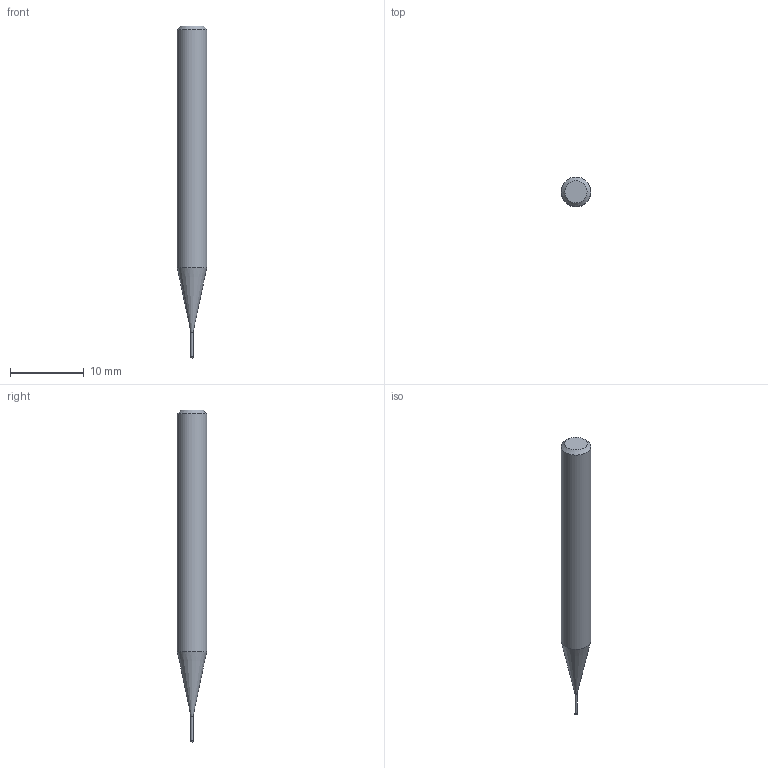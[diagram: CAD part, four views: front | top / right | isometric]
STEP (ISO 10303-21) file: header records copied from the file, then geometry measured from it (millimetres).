
FILE_DESCRIPTION((''),'2;1');
FILE_NAME('C:\Users\nsx150\AppData\Local\Temp\Mastercam 2021\3SYKECWX22\TEMP.step','2021-04-22T09:59:31',(''),(''),'STEP Write','Mastercam 2021 ... CNC Software, Inc.','');
FILE_SCHEMA(('AUTOMOTIVE_DESIGN'));
Length unit declared in the file: millimetre
Products named in the file (1): None
Bounding box: 4 x 4 x 45 mm (x, y, z)
Volume: 449.7 mm3; surface area: 483.5 mm2
Topology: 2 solids, 2 shells, 9 faces, 14 edges, 8 vertices
Faces by surface type: plane 3, cylinder 3, cone 2, sphere 1
Full cylindrical faces by diameter (mm): 0.28 x1, 0.3 x1, 4 x1
Entity records: 211 total; most frequent: DIRECTION 36, CARTESIAN_POINT 25, AXIS2_PLACEMENT_3D 18, ORIENTED_EDGE 14, EDGE_LOOP 14, STYLED_ITEM 12, ADVANCED_FACE 9, FACE_BOUND 8
